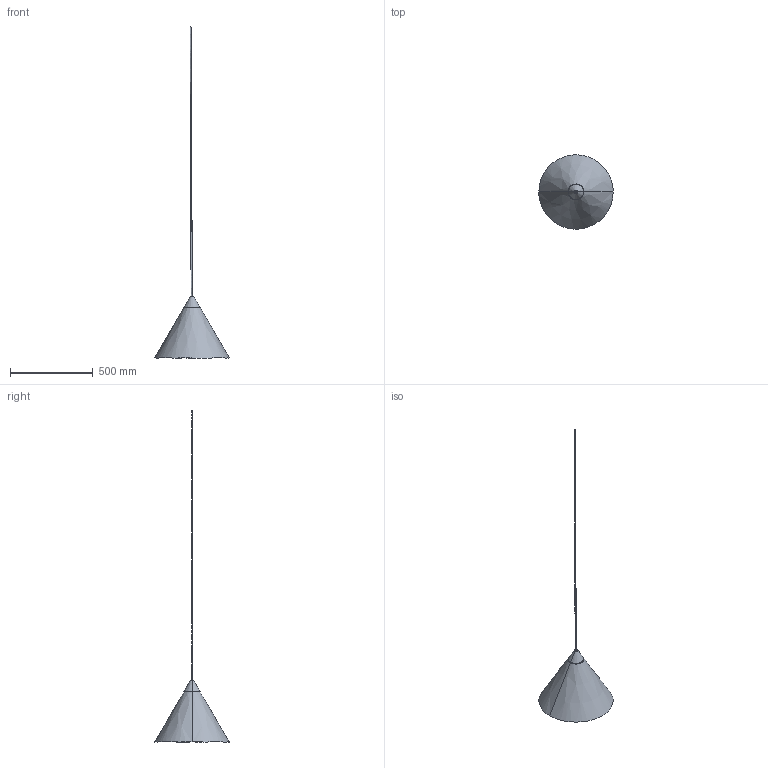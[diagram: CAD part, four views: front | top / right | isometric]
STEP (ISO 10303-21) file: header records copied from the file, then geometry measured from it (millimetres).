
FILE_DESCRIPTION(/* description */ (''),/* implementation_level */ '2;1');
FILE_NAME(/* name */ 'Dou Pendant Ø45_3D',/* time_stamp */ '2021-05-03T15:52:04+02:00',/* author */ (''),/* organization */ (''),/* preprocessor_version */ 'ST-DEVELOPER v16.5',/* originating_system */ '',/* authorisation */ '');
FILE_SCHEMA (('CONFIG_CONTROL_DESIGN'));
Length unit declared in the file: millimetre
Products named in the file (1): Document
Bounding box: 450 x 449.27 x 2009.09 mm (x, y, z)
Volume: 1145649.2 mm3; surface area: 435121.7 mm2
Topology: 10 solids, 11 shells, 55 faces, 127 edges, 74 vertices
Faces by surface type: bspline 34, cylinder 13, plane 8
Full cylindrical faces by diameter (mm): 40 x1
Entity records: 2042 total; most frequent: CARTESIAN_POINT 1318, ORIENTED_EDGE 194, EDGE_CURVE 99, VERTEX_POINT 60, EDGE_LOOP 57, ADVANCED_FACE 55, FACE_OUTER_BOUND 55, DIRECTION 28
